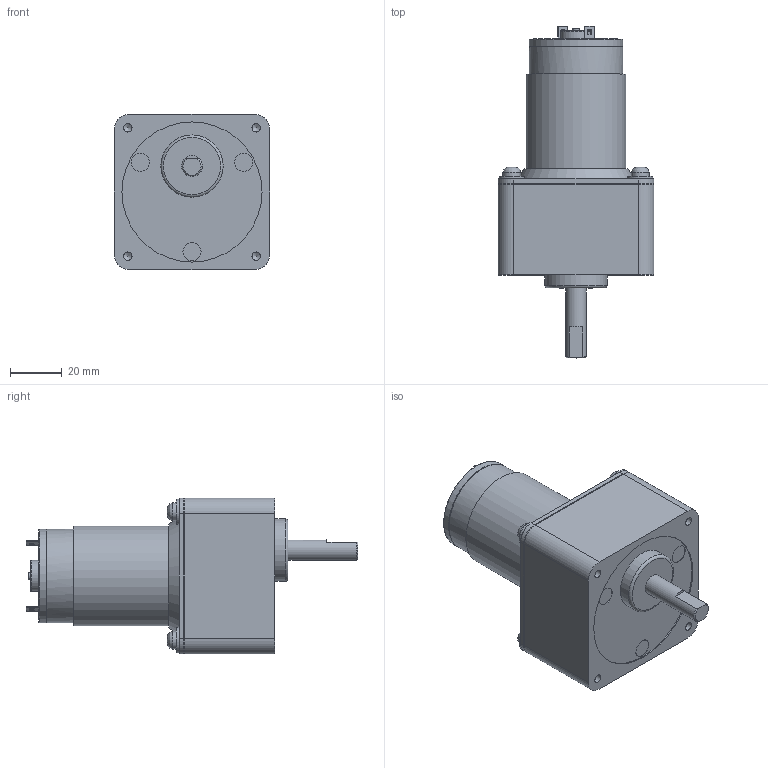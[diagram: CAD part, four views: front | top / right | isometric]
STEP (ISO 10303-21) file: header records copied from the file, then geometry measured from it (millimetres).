
FILE_DESCRIPTION((''),'2;1');
FILE_NAME('C:\Documents and Settings\SSEGAWA\デスクトップ\TP-3850A-CM-3.STP','2013-07-29T09:59:05',('SSEGAWA'),(''),'Autodesk Inventor 2010','Autodesk Inventor 2010','');
FILE_SCHEMA(('CONFIG_CONTROL_DESIGN'));
Length unit declared in the file: millimetre
Products named in the file (1): tp_3850a_cm_3_Shrinkwrap_1
Bounding box: 60 x 128 x 60 mm (x, y, z)
Volume: 197085.5 mm3; surface area: 24930.6 mm2
Topology: 1 solids, 4 shells, 124 faces, 270 edges, 177 vertices
Faces by surface type: plane 60, cylinder 35, bspline 22, torus 4, cone 3
Full cylindrical faces by diameter (mm): 2.5 x1, 3 x1, 4.5 x1, 6.8 x4, 7 x3, 8 x1, 9.8 x4, 12 x1, 24 x1, 35.6 x1, 36 x2, 54 x1
Entity records: 3526 total; most frequent: CARTESIAN_POINT 912, DIRECTION 512, ORIENTED_EDGE 420, EDGE_CURVE 210, AXIS2_PLACEMENT_3D 201, EDGE_LOOP 197, VERTEX_POINT 161, STYLED_ITEM 125
